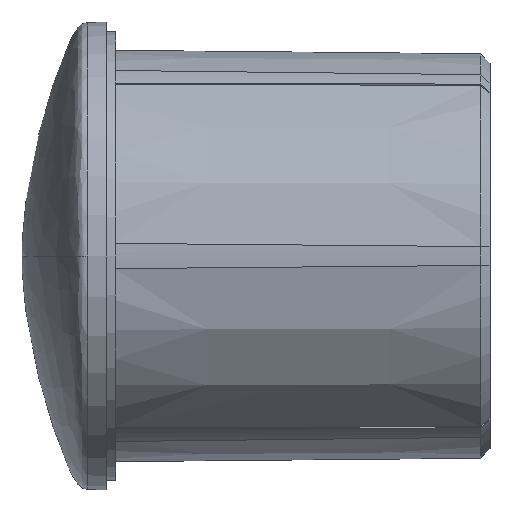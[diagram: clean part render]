
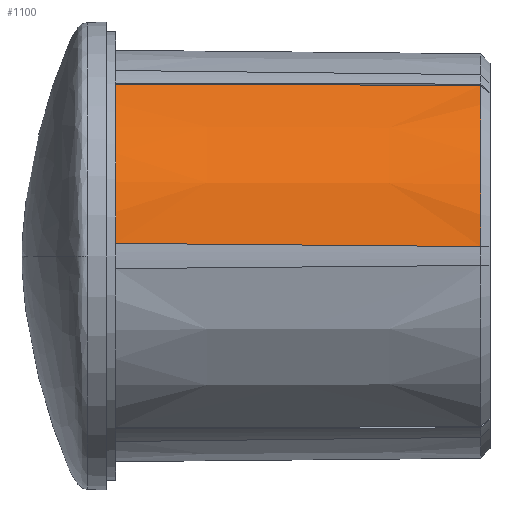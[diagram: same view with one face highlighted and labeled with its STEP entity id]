
A CAD part, left-side view. The second image highlights one B-rep face of the part: STEP entity #1100.
In plain terms, the highlighted conical face has half-angle 0.5 degrees and reference radius 11 mm.
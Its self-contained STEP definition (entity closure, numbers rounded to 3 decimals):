
#2 = CIRCLE ( 'NONE', #1622, 10.83 ) ;
#20 = ORIENTED_EDGE ( 'NONE', *, *, #1536, .T. ) ;
#96 = EDGE_CURVE ( 'NONE', #140, #2294, #2179, .T. ) ;
#140 = VERTEX_POINT ( 'NONE', #2104 ) ;
#263 = CARTESIAN_POINT ( 'NONE',  ( 0., -19.5, 0. ) ) ;
#270 = DIRECTION ( 'NONE',  ( 0., 1., 0. ) ) ;
#449 = CARTESIAN_POINT ( 'NONE',  ( 0., 0., 0. ) ) ;
#470 = CARTESIAN_POINT ( 'NONE',  ( -10.979, 0., 0.675 ) ) ;
#482 = DIRECTION ( 'NONE',  ( 0., -1., 0. ) ) ;
#486 = CARTESIAN_POINT ( 'NONE',  ( -6.074, 0., 9.171 ) ) ;
#538 = EDGE_CURVE ( 'NONE', #2294, #1411, #847, .T. ) ;
#617 = CARTESIAN_POINT ( 'NONE',  ( -10.926, -6.5, 0.618 ) ) ;
#628 = DIRECTION ( 'NONE',  ( 0., 0., -1. ) ) ;
#676 = B_SPLINE_CURVE_WITH_KNOTS ( 'NONE', 3,
 ( #470, #617, #992, #972 ),
 .UNSPECIFIED., .F., .F.,
 ( 4, 4 ),
 ( 0., 0.02 ),
 .UNSPECIFIED. ) ;
#679 = CARTESIAN_POINT ( 'NONE',  ( -5.846, -19.5, 9.117 ) ) ;
#736 = CONICAL_SURFACE ( 'NONE', #1366, 11., 0.009 ) ;
#789 = EDGE_LOOP ( 'NONE', ( #1466, #20, #1756, #801 ) ) ;
#801 = ORIENTED_EDGE ( 'NONE', *, *, #538, .T. ) ;
#847 = CIRCLE ( 'NONE', #2242, 11. ) ;
#861 = CARTESIAN_POINT ( 'NONE',  ( -5.922, -13., 9.135 ) ) ;
#890 = CARTESIAN_POINT ( 'NONE',  ( -10.818, -19.5, 0.504 ) ) ;
#946 = CARTESIAN_POINT ( 'NONE',  ( -10.979, 0., 0.675 ) ) ;
#972 = CARTESIAN_POINT ( 'NONE',  ( -10.818, -19.5, 0.504 ) ) ;
#980 = DIRECTION ( 'NONE',  ( 0., 1., 0. ) ) ;
#992 = CARTESIAN_POINT ( 'NONE',  ( -10.872, -13., 0.561 ) ) ;
#1013 = CARTESIAN_POINT ( 'NONE',  ( -6.074, 0., 9.171 ) ) ;
#1100 = ADVANCED_FACE ( 'NONE', ( #1138 ), #736, .T. ) ;
#1138 = FACE_OUTER_BOUND ( 'NONE', #789, .T. ) ;
#1366 = AXIS2_PLACEMENT_3D ( 'NONE', #449, #980, #628 ) ;
#1411 = VERTEX_POINT ( 'NONE', #946 ) ;
#1466 = ORIENTED_EDGE ( 'NONE', *, *, #1499, .T. ) ;
#1499 = EDGE_CURVE ( 'NONE', #1411, #2112, #676, .T. ) ;
#1536 = EDGE_CURVE ( 'NONE', #2112, #140, #2, .T. ) ;
#1622 = AXIS2_PLACEMENT_3D ( 'NONE', #263, #270, #1880 ) ;
#1685 = DIRECTION ( 'NONE',  ( 0., 0., 1. ) ) ;
#1756 = ORIENTED_EDGE ( 'NONE', *, *, #96, .T. ) ;
#1880 = DIRECTION ( 'NONE',  ( 0., 0., 1. ) ) ;
#2089 = CARTESIAN_POINT ( 'NONE',  ( -5.998, -6.5, 9.153 ) ) ;
#2104 = CARTESIAN_POINT ( 'NONE',  ( -5.846, -19.5, 9.117 ) ) ;
#2112 = VERTEX_POINT ( 'NONE', #890 ) ;
#2179 = B_SPLINE_CURVE_WITH_KNOTS ( 'NONE', 3,
 ( #679, #861, #2089, #1013 ),
 .UNSPECIFIED., .F., .F.,
 ( 4, 4 ),
 ( 0.001, 0.02 ),
 .UNSPECIFIED. ) ;
#2228 = CARTESIAN_POINT ( 'NONE',  ( 0., 0., 0. ) ) ;
#2242 = AXIS2_PLACEMENT_3D ( 'NONE', #2228, #482, #1685 ) ;
#2294 = VERTEX_POINT ( 'NONE', #486 ) ;
